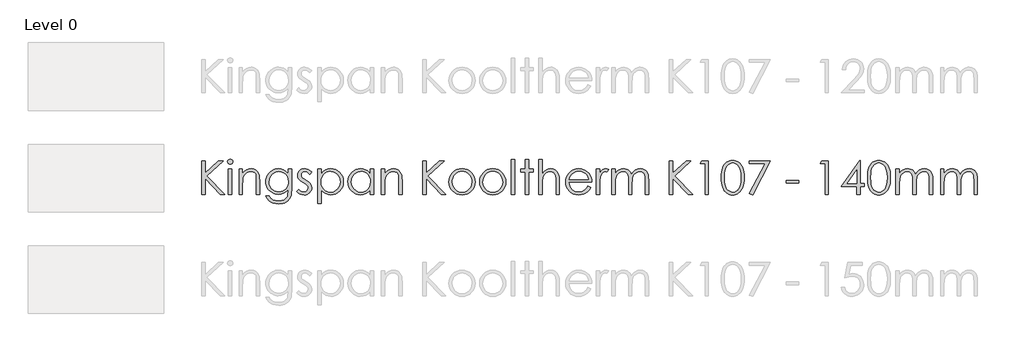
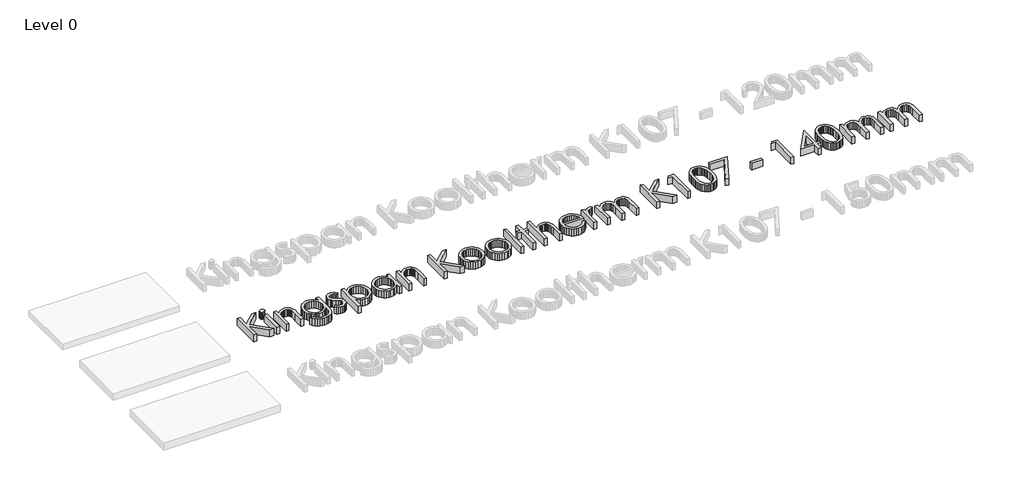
# One storey, part 2 of 13: 1 proxy.
"""IFC4 building model written with IfcOpenShell, lengths in millimetres."""

from ifc_helpers import new_model, si_unit, origin, origin_with_axes, place, context, project, spatial, polyline, outline, extrude, element, save

model = new_model("IFC4")

# Units and contexts
model_context = context("Model", 3, world=origin())
ifc_project = project(units=[si_unit("LENGTHUNIT", "METRE", prefix="MILLI")], contexts=[model_context])

# Site, building, storey
site = spatial("IfcSite", under=ifc_project)
building = spatial("IfcBuilding", under=site)
storey = spatial("IfcBuildingStorey", under=building, Name="Level 0", Elevation=0.0)

# Proxy
placement = place(None, origin())
element("IfcBuildingElementProxy", 1, Name="600mm KI_CenturyGothic", ObjectType="600mm KI_CenturyGothic", at=placement, inside=storey, context=model_context, shape_type="SweptSolid", body=[
    extrude(outline(polyline([(-3852.2663848, -13899.1034017), (-3792.944575, -13899.1034017), (-3792.944575, -14118.316027), (-3555.1938841, -13899.1034017), (-3471.6181051, -13899.1034017), (-3760.9664119, -14166.0515459), (-3441.9572002, -14492.3214999), (-3520.8984627, -14492.3214999), (-3792.944575, -14214.0960325), (-3792.944575, -14492.3214999), (-3852.2663848, -14492.3214999), (-3852.2663848, -13899.1034017)])), origin_with_axes(), (0.0, 0.0, 1.0), 150.0),
    extrude(outline(polyline([(-3348.1854852, -13869.4424967), (-3329.145347, -13872.7252792), (-3313.1176445, -13882.5736265), (-3302.226531, -13897.0178693), (-3298.5961598, -13914.088338), (-3302.226531, -13930.9270809), (-3313.1176445, -13945.2940817), (-3329.145347, -13955.142429), (-3348.1854852, -13958.4252115), (-3366.9938975, -13955.142429), (-3382.9443581, -13945.2940817), (-3393.8354717, -13930.9270809), (-3397.4658428, -13914.088338), (-3393.8354717, -13897.0178693), (-3382.9443581, -13882.5736265), (-3366.9938975, -13872.7252792), (-3348.1854852, -13869.4424967)])), origin_with_axes(), (0.0, 0.0, 1.0), 150.0),
    extrude(outline(polyline([(-3377.6919062, -14047.4079262), (-3318.3700964, -14047.4079262), (-3318.3700964, -14492.3214999), (-3377.6919062, -14492.3214999), (-3377.6919062, -14047.4079262)])), origin_with_axes(), (0.0, 0.0, 1.0), 150.0),
    extrude(outline(polyline([(-3189.8395084, -14047.4079262), (-3130.5176986, -14047.4079262), (-3130.5176986, -14126.5036726), (-3096.9946967, -14086.9944204), (-3060.0730495, -14059.303185), (-3019.7141359, -14042.9665147), (-2975.879335, -14037.5209579), (-2953.4357238, -14039.0995901), (-2932.2955704, -14043.8354865), (-2912.4588747, -14051.7286472), (-2893.9256368, -14062.7790723), (-2877.212412, -14076.5039994), (-2862.835756, -14092.4206667), (-2841.0921499, -14130.8292213), (-2833.6238199, -14155.2087086), (-2828.2892984, -14185.5551357), (-2824.0216812, -14264.1488095), (-2824.0216812, -14492.3214999), (-2883.343491, -14492.3214999), (-2883.343491, -14279.1337458), (-2883.343491, -14176.092998), (-2884.7290183, -14155.2956057), (-2889.8125035, -14137.2403023), (-2898.2849788, -14121.9270877), (-2910.1464442, -14109.355962), (-2924.7403432, -14099.5558909), (-2941.4101193, -14092.5558401), (-2980.977303, -14086.9557994), (-3005.3471351, -14089.1137461), (-3028.4038541, -14095.5875862), (-3050.1474602, -14106.3773197), (-3070.5779533, -14121.4829466), (-3088.6622225, -14139.7651482), (-3103.3671568, -14160.084606), (-3114.6927562, -14182.44132), (-3122.6390208, -14206.8352901), (-3128.5480292, -14253.9142525), (-3130.5176986, -14328.4141035), (-3130.5176986, -14492.3214999), (-3189.8395084, -14492.3214999), (-3189.8395084, -14047.4079262)])), origin_with_axes(), (0.0, 0.0, 1.0), 150.0),
    extrude(outline(polyline([(-2319.7862977, -14047.4079262), (-2260.4644879, -14047.4079262), (-2260.4644879, -14398.395301), (-2264.5196897, -14478.6496765), (-2269.588692, -14509.4499001), (-2276.6852953, -14534.0321474), (-2289.9371156, -14562.6454585), (-2307.2924139, -14587.7732271), (-2328.7511904, -14609.4154531), (-2354.3134448, -14627.5721366), (-2383.3226209, -14641.9343098), (-2415.122162, -14652.1930049), (-2449.7120682, -14658.348222), (-2487.0923395, -14660.3999611), (-2541.0458345, -14656.3833802), (-2589.206184, -14644.3336376), (-2630.260275, -14625.5059147), (-2662.8949946, -14601.1553932), (-2690.2000204, -14567.8061856), (-2715.2650299, -14521.9824048), (-2655.94322, -14521.9824048), (-2642.4355358, -14543.151524), (-2627.0933555, -14561.3951046), (-2609.9166791, -14576.7131468), (-2590.9055067, -14589.1056506), (-2569.7894914, -14598.6691682), (-2546.2982864, -14605.5002523), (-2492.1903075, -14610.9651195), (-2438.5071593, -14605.6354257), (-2415.083541, -14598.9733084), (-2393.93856, -14589.6463441), (-2359.6624492, -14565.6047903), (-2336.8567664, -14536.1176798), (-2329.3884364, -14517.4782342), (-2324.0539149, -14493.7697863), (-2319.7862977, -14431.1458835), (-2319.7862977, -14408.4367532), (-2354.757586, -14444.2190818), (-2396.6420279, -14470.6165148), (-2443.392712, -14486.8952536), (-2492.9627269, -14492.3214999), (-2522.4063889, -14490.4242447), (-2550.9521133, -14484.7324793), (-2578.5999001, -14475.2462036), (-2605.3497494, -14461.9654175), (-2630.1540674, -14445.4742634), (-2651.9652601, -14426.3568832), (-2670.7833277, -14404.6132772), (-2686.6082702, -14380.2434451), (-2699.1456025, -14353.9280817), (-2708.1008399, -14326.3478816), (-2713.4739824, -14297.5028447), (-2715.2650299, -14267.392971), (-2713.3967404, -14237.1044753), (-2707.7918722, -14207.8780563), (-2698.4504251, -14179.713714), (-2685.3723991, -14152.6114483), (-2668.9971079, -14127.4257483), (-2649.7638648, -14105.0111029), (-2627.67267, -14085.367512), (-2602.7235235, -14068.4949758), (-2575.9833294, -14054.943843), (-2548.5189922, -14045.2644624), (-2520.3305117, -14039.456834), (-2491.4178881, -14037.5209579), (-2444.5320306, -14042.4644421), (-2400.8903346, -14057.2948945), (-2359.6045177, -14083.8661218), (-2319.7862977, -14124.0319306), (-2319.7862977, -14047.4079262)]), holes=[polyline([(-2484.1571458, -14086.9557994), (-2529.0154023, -14092.9806707), (-2570.5908765, -14111.0552847), (-2606.2187212, -14139.7699758), (-2633.2340897, -14177.7150788), (-2650.2659375, -14221.9940208), (-2655.94322, -14269.7102292), (-2653.0080263, -14305.6229036), (-2644.2024452, -14338.2817613), (-2629.5264766, -14367.6868023), (-2608.9801206, -14393.8380266), (-2583.7606272, -14415.296803), (-2555.0652466, -14430.6245004), (-2522.8939786, -14439.8211189), (-2487.2468234, -14442.8866584), (-2451.3244937, -14439.845257), (-2419.1001219, -14430.7210528), (-2390.573708, -14415.5140459), (-2365.7452519, -14394.2242363), (-2345.6382095, -14367.9812872), (-2331.2760363, -14337.9148621), (-2322.6587323, -14304.024961), (-2319.7862977, -14266.3115838), (-2325.0773706, -14217.6105407), (-2340.9505892, -14174.3936754), (-2366.4983608, -14138.1672056), (-2400.8130926, -14110.4373492), (-2440.9982119, -14092.8261869), (-2484.1571458, -14086.9557994)])]), origin_with_axes(), (0.0, 0.0, 1.0), 150.0),
    extrude(outline(polyline([(-1904.5336289, -14098.6965743), (-1940.9918246, -14136.390641), (-1962.9575012, -14114.7628978), (-1984.6721416, -14099.3145098), (-2006.1357456, -14090.045477), (-2027.3483133, -14086.9557994), (-2052.181597, -14091.6289368), (-2073.2300256, -14105.6483489), (-2087.5970264, -14125.8857371), (-2092.3860267, -14149.212803), (-2088.4466878, -14170.7633042), (-2076.628671, -14191.2324183), (-2052.0657341, -14213.400855), (-2010.2006027, -14239.122421), (-1958.3326401, -14271.9888664), (-1939.8428507, -14287.8138088), (-1926.315856, -14303.2332311), (-1909.9791857, -14335.9065716), (-1904.5336289, -14372.4420092), (-1906.9474396, -14398.5884059), (-1914.1888714, -14422.6492701), (-1926.2579245, -14444.624602), (-1943.1545989, -14464.5144015), (-1963.6719892, -14481.0055557), (-1986.6031901, -14492.7849515), (-2011.9482016, -14499.852589), (-2039.7070237, -14502.2084682), (-2077.4397114, -14498.3270607), (-2113.3958344, -14486.6828383), (-2145.4512394, -14468.2027042), (-2171.4817731, -14443.8135617), (-2135.7959969, -14403.3387852), (-2114.0041146, -14424.9665283), (-2091.5749863, -14440.4149163), (-2068.5086121, -14449.6839491), (-2044.8049918, -14452.7736267), (-2013.637869, -14447.1349651), (-1987.4914724, -14430.2189802), (-1969.7644472, -14405.6560434), (-1963.8554388, -14377.0765256), (-1967.7561567, -14353.2860081), (-1979.4583106, -14332.2762005), (-2005.0253927, -14310.5712154), (-2050.2119275, -14283.7682622), (-2099.762632, -14253.1032121), (-2117.441381, -14237.9444814), (-2130.3890611, -14222.9016136), (-2146.3781427, -14190.7689666), (-2151.7078365, -14154.310771), (-2149.5305794, -14130.2643896), (-2142.9988078, -14108.3325063), (-2132.1125219, -14088.5151211), (-2116.8717217, -14070.812234), (-2098.309518, -14056.2473007), (-2077.4590218, -14045.8437769), (-2054.3202332, -14039.6016627), (-2028.8931521, -14037.5209579), (-1997.9481, -14041.3444339), (-1966.9064954, -14052.814862), (-1935.7683384, -14071.9322421), (-1904.5336289, -14098.6965743)])), origin_with_axes(), (0.0, 0.0, 1.0), 150.0),
    extrude(outline(polyline([(-1795.7769776, -14047.4079262), (-1736.4551678, -14047.4079262), (-1736.4551678, -14128.5119631), (-1700.9238754, -14088.2689124), (-1660.4490989, -14059.9211205), (-1614.9922173, -14043.1209986), (-1564.5146096, -14037.5209579), (-1520.0618732, -14041.7596094), (-1478.9305402, -14054.4755637), (-1441.1206107, -14075.668821), (-1406.6320845, -14105.3393811), (-1377.9077381, -14140.9768811), (-1357.3903478, -14180.070958), (-1345.0799137, -14222.6216116), (-1340.9764356, -14268.628842), (-1345.0412927, -14315.5291824), (-1357.235864, -14358.7508754), (-1377.5601494, -14398.293921), (-1406.014149, -14434.1583192), (-1440.2130179, -14463.9302594), (-1477.7719111, -14485.1959309), (-1518.6908288, -14497.9553339), (-1562.9697708, -14502.2084682), (-1612.6170277, -14496.743601), (-1658.0545988, -14480.3489992), (-1699.3211052, -14453.1019049), (-1736.4551678, -14415.07956), (-1736.4551678, -14650.5129928), (-1795.7769776, -14650.5129928), (-1795.7769776, -14047.4079262)]), holes=[polyline([(-1568.5311905, -14086.9557994), (-1602.5852307, -14090.2530647), (-1633.8392507, -14100.1448607), (-1662.2932503, -14116.6311872), (-1687.9472295, -14139.7120444), (-1709.1694525, -14167.6977647), (-1724.3281832, -14198.8986808), (-1733.4234216, -14233.3147926), (-1736.4551678, -14270.9461002), (-1731.048232, -14319.8016272), (-1714.8274246, -14363.4819442), (-1688.5265441, -14400.3263495), (-1652.8793888, -14428.6741414), (-1611.4390881, -14446.7487554), (-1567.7587711, -14452.7736267), (-1525.0632888, -14446.7101344), (-1485.0326535, -14428.5196576), (-1450.2544701, -14399.4187567), (-1423.3163435, -14360.6239924), (-1406.05277, -14315.9588407), (-1400.2982454, -14269.2467775), (-1405.9948385, -14222.3029886), (-1423.0846177, -14177.8695627), (-1449.8103289, -14139.5189395), (-1484.414718, -14110.8235589), (-1524.7157001, -14092.9227393), (-1568.5311905, -14086.9557994)])]), origin_with_axes(), (0.0, 0.0, 1.0), 150.0),
    extrude(outline(polyline([(-807.0801472, -14047.4079262), (-807.0801472, -14492.3214999), (-866.401957, -14492.3214999), (-866.401957, -14416.4699149), (-903.4780882, -14454.3184655), (-944.8797679, -14481.0441767), (-990.4525125, -14496.9173953), (-1040.0418379, -14502.2084682), (-1084.3159523, -14497.9553339), (-1125.2203871, -14485.1959309), (-1162.7551422, -14463.9302594), (-1196.9202178, -14434.1583192), (-1225.340424, -14398.293921), (-1245.6405713, -14358.7508754), (-1257.8206597, -14315.5291824), (-1261.8806892, -14268.628842), (-1257.7820388, -14222.6216116), (-1245.4860875, -14180.070958), (-1224.9928353, -14140.9768811), (-1196.3022822, -14105.3393811), (-1161.8475494, -14075.668821), (-1124.061758, -14054.4755637), (-1082.9449079, -14041.7596094), (-1038.4969991, -14037.5209579), (-987.7490446, -14043.1209986), (-942.0990581, -14059.9211205), (-921.2051134, -14072.6081091), (-901.6242816, -14088.2689124), (-866.401957, -14128.5119631), (-866.401957, -14047.4079262), (-807.0801472, -14047.4079262)]), holes=[polyline([(-1034.3259343, -14086.9557994), (-1078.1414247, -14092.9227393), (-1118.4424068, -14110.8235589), (-1153.0467959, -14139.5189395), (-1179.7725071, -14177.8695627), (-1196.8622863, -14222.3029886), (-1202.5588794, -14269.2467775), (-1196.8043548, -14315.9588407), (-1179.5407813, -14360.6239924), (-1152.6026548, -14399.4187567), (-1117.8244713, -14428.5196576), (-1077.6779731, -14446.7101344), (-1034.6349021, -14452.7736267), (-991.0125165, -14446.7487554), (-949.7460102, -14428.6741414), (-914.2726493, -14400.3263495), (-888.0297002, -14363.4819442), (-871.8088928, -14319.8016272), (-866.401957, -14270.9461002), (-869.4337032, -14233.3147926), (-878.5289416, -14198.8986808), (-893.6876723, -14167.6977647), (-914.9098953, -14139.7120444), (-940.5638746, -14116.6311872), (-969.0178742, -14100.1448607), (-1000.2718941, -14090.2530647), (-1034.3259343, -14086.9557994)])]), origin_with_axes(), (0.0, 0.0, 1.0), 150.0),
    extrude(outline(polyline([(-668.662591, -14047.4079262), (-609.3407811, -14047.4079262), (-609.3407811, -14126.5036726), (-575.8177792, -14086.9944204), (-538.896132, -14059.303185), (-498.5372184, -14042.9665147), (-454.7024175, -14037.5209579), (-432.2588064, -14039.0995901), (-411.1186529, -14043.8354865), (-391.2819572, -14051.7286472), (-372.7487193, -14062.7790723), (-356.0354946, -14076.5039994), (-341.6588385, -14092.4206667), (-319.9152324, -14130.8292213), (-312.4469024, -14155.2087086), (-307.1123809, -14185.5551357), (-302.8447637, -14264.1488095), (-302.8447637, -14492.3214999), (-362.1665735, -14492.3214999), (-362.1665735, -14279.1337458), (-362.1665735, -14176.092998), (-363.5521008, -14155.2956057), (-368.635586, -14137.2403023), (-377.1080613, -14121.9270877), (-388.9695267, -14109.355962), (-403.5634257, -14099.5558909), (-420.2332018, -14092.5558401), (-459.8003855, -14086.9557994), (-484.1702176, -14089.1137461), (-507.2269366, -14095.5875862), (-528.9705427, -14106.3773197), (-549.4010358, -14121.4829466), (-567.485305, -14139.7651482), (-582.1902393, -14160.084606), (-593.5158387, -14182.44132), (-601.4621033, -14206.8352901), (-607.3711117, -14253.9142525), (-609.3407811, -14328.4141035), (-609.3407811, -14492.3214999), (-668.662591, -14492.3214999), (-668.662591, -14047.4079262)])), origin_with_axes(), (0.0, 0.0, 1.0), 150.0),
    extrude(outline(polyline([(62.9730635, -13899.1034017), (122.2948734, -13899.1034017), (122.2948734, -14118.316027), (360.0455643, -13899.1034017), (443.6213432, -13899.1034017), (154.2730365, -14166.0515459), (473.2822481, -14492.3214999), (394.3409856, -14492.3214999), (122.2948734, -14214.0960325), (122.2948734, -14492.3214999), (62.9730635, -14492.3214999), (62.9730635, -13899.1034017)])), origin_with_axes(), (0.0, 0.0, 1.0), 150.0),
    extrude(outline(polyline([(760.1588128, -14037.5209579), (809.4681362, -14042.1458191), (854.3553585, -14056.0204025), (894.8204798, -14079.1447083), (930.8635, -14111.5187363), (957.7630055, -14146.7507161), (976.9769381, -14185.091684), (988.5052976, -14226.54164), (992.3480841, -14271.1005841), (988.283227, -14315.9153921), (976.0886558, -14357.8239721), (955.7643703, -14396.8263241), (927.3103707, -14432.9224481), (892.4742558, -14463.2350819), (853.0036246, -14484.8869632), (808.8984769, -14497.8780919), (760.1588128, -14502.2084682), (711.2839754, -14497.8780919), (667.0822753, -14484.8869632), (627.5537126, -14463.2350819), (592.6982872, -14432.9224481), (564.2442876, -14396.8263241), (543.9200022, -14357.8239721), (531.7254309, -14315.9153921), (527.6605738, -14271.1005841), (531.5033603, -14226.7347449), (543.0317198, -14185.4006518), (562.2456524, -14147.0983049), (589.145158, -14111.8277041), (625.2074886, -14079.3185026), (665.7305413, -14056.0976445), (710.7143161, -14042.1651295), (760.1588128, -14037.5209579)]), holes=[polyline([(760.004329, -14086.9557994), (725.7282181, -14090.3303067), (693.9624704, -14100.4538284), (664.7070856, -14117.3263647), (637.962064, -14140.9479154), (615.6584538, -14169.3584664), (599.7273037, -14200.5980035), (590.1686137, -14234.6665266), (586.9823836, -14271.5640357), (592.7948396, -14319.2995546), (610.2322075, -14363.6364281), (637.5758543, -14401.4270471), (673.1071466, -14429.5238028), (714.6439998, -14446.9611707), (760.004329, -14452.7736267), (805.3646581, -14446.9611707), (846.9015113, -14429.5238028), (882.4328037, -14401.4270471), (909.7764504, -14363.6364281), (927.2138183, -14319.2995546), (933.0262743, -14271.5640357), (929.8255614, -14234.6665266), (920.2234227, -14200.5980035), (904.2198583, -14169.3584664), (881.8148681, -14140.9479154), (854.9974321, -14117.3263647), (825.7565303, -14100.4538284), (794.0921625, -14090.3303067), (760.004329, -14086.9557994)])]), origin_with_axes(), (0.0, 0.0, 1.0), 150.0),
    extrude(outline(polyline([(1303.9420695, -14037.5209579), (1353.2513929, -14042.1458191), (1398.1386152, -14056.0204025), (1438.6037365, -14079.1447083), (1474.6467567, -14111.5187363), (1501.5462622, -14146.7507161), (1520.7601948, -14185.091684), (1532.2885543, -14226.54164), (1536.1313408, -14271.1005841), (1532.0664837, -14315.9153921), (1519.8719125, -14357.8239721), (1499.547627, -14396.8263241), (1471.0936274, -14432.9224481), (1436.2575126, -14463.2350819), (1396.7868813, -14484.8869632), (1352.6817336, -14497.8780919), (1303.9420695, -14502.2084682), (1255.0672321, -14497.8780919), (1210.865532, -14484.8869632), (1171.3369693, -14463.2350819), (1136.4815439, -14432.9224481), (1108.0275443, -14396.8263241), (1087.7032589, -14357.8239721), (1075.5086876, -14315.9153921), (1071.4438305, -14271.1005841), (1075.286617, -14226.7347449), (1086.8149766, -14185.4006518), (1106.0289091, -14147.0983049), (1132.9284147, -14111.8277041), (1168.9907453, -14079.3185026), (1209.5137981, -14056.0976445), (1254.4975728, -14042.1651295), (1303.9420695, -14037.5209579)]), holes=[polyline([(1303.7875857, -14086.9557994), (1269.5114748, -14090.3303067), (1237.7457271, -14100.4538284), (1208.4903423, -14117.3263647), (1181.7453207, -14140.9479154), (1159.4417105, -14169.3584664), (1143.5105604, -14200.5980035), (1133.9518704, -14234.6665266), (1130.7656404, -14271.5640357), (1136.5780963, -14319.2995546), (1154.0154643, -14363.6364281), (1181.359111, -14401.4270471), (1216.8904033, -14429.5238028), (1258.4272565, -14446.9611707), (1303.7875857, -14452.7736267), (1349.1479149, -14446.9611707), (1390.684768, -14429.5238028), (1426.2160604, -14401.4270471), (1453.5597071, -14363.6364281), (1470.997075, -14319.2995546), (1476.809531, -14271.5640357), (1473.6088181, -14234.6665266), (1464.0066795, -14200.5980035), (1448.003115, -14169.3584664), (1425.5981249, -14140.9479154), (1398.7806889, -14117.3263647), (1369.539787, -14100.4538284), (1337.8754193, -14090.3303067), (1303.7875857, -14086.9557994)])]), origin_with_axes(), (0.0, 0.0, 1.0), 150.0),
    extrude(outline(polyline([(1635.0010238, -13879.3294651), (1694.3228337, -13879.3294651), (1694.3228337, -14492.3214999), (1635.0010238, -14492.3214999), (1635.0010238, -13879.3294651)])), origin_with_axes(), (0.0, 0.0, 1.0), 150.0),
    extrude(outline(polyline([(1882.1752314, -13879.3294651), (1941.4970413, -13879.3294651), (1941.4970413, -14047.4079262), (2020.5927877, -14047.4079262), (2020.5927877, -14096.8427677), (1941.4970413, -14096.8427677), (1941.4970413, -14492.3214999), (1882.1752314, -14492.3214999), (1882.1752314, -14096.8427677), (1803.079485, -14096.8427677), (1803.079485, -14047.4079262), (1882.1752314, -14047.4079262), (1882.1752314, -13879.3294651)])), origin_with_axes(), (0.0, 0.0, 1.0), 150.0),
    extrude(outline(polyline([(2119.4624707, -13879.3294651), (2178.7842806, -13879.3294651), (2178.7842806, -14128.0485114), (2212.5583188, -14088.3461544), (2249.6151394, -14060.0756044), (2289.9161216, -14043.1596195), (2333.4226442, -14037.5209579), (2355.8662553, -14039.0995901), (2377.0064088, -14043.8354865), (2396.8431044, -14051.7286472), (2415.3763424, -14062.7790723), (2432.0895671, -14076.4895166), (2446.4662232, -14092.3627352), (2468.2098293, -14130.5974955), (2475.6781593, -14154.9045684), (2481.0126808, -14185.2654784), (2485.280298, -14264.1488095), (2485.280298, -14492.3214999), (2425.9584882, -14492.3214999), (2425.9584882, -14279.1337458), (2424.5681332, -14214.752589), (2420.3970685, -14176.092998), (2406.879729, -14137.2403023), (2397.1665551, -14121.9270877), (2385.4837117, -14109.355962), (2371.840854, -14099.5558909), (2356.2476374, -14092.5558401), (2319.2101273, -14086.9557994), (2296.3416854, -14089.1137461), (2274.6994594, -14095.5875862), (2254.2834492, -14106.3773197), (2235.0936547, -14121.4829466), (2218.1052556, -14139.7651482), (2204.2934312, -14160.084606), (2193.6581816, -14182.44132), (2186.1995068, -14206.8352901), (2180.6380871, -14253.6825267), (2178.7842806, -14328.4141035), (2178.7842806, -14492.3214999), (2119.4624707, -14492.3214999), (2119.4624707, -13879.3294651)])), origin_with_axes(), (0.0, 0.0, 1.0), 150.0),
    extrude(outline(polyline([(2991.0605203, -14344.0169753), (3038.950523, -14369.1978477), (3013.3255094, -14411.0822896), (2984.0315038, -14444.0452875), (2950.952643, -14469.1296074), (2913.9730643, -14487.3780157), (2872.4941426, -14498.5008551), (2825.9172528, -14502.2084682), (2774.4258447, -14497.7767119), (2728.8627554, -14484.481443), (2689.227985, -14462.3226615), (2655.5215335, -14431.3003674), (2628.6220279, -14394.6973431), (2609.4080954, -14355.7963712), (2597.8797358, -14314.5974515), (2594.0369493, -14271.1005841), (2597.3197318, -14230.2202874), (2607.1680791, -14191.618628), (2623.5819913, -14155.2956057), (2646.5614684, -14121.2512207), (2682.7493173, -14084.6192308), (2724.5758277, -14058.4535236), (2772.0409998, -14042.7540993), (2825.1448334, -14037.5209579), (2879.7935059, -14042.8892727), (2928.6490329, -14058.9942172), (2971.7114143, -14085.8357913), (3008.9806503, -14123.4139951), (3030.4539096, -14155.585263), (3045.9022976, -14191.541386), (3055.3258143, -14231.2823641), (3058.7244596, -14274.8081972), (2653.3587591, -14274.8081972), (2657.095338, -14312.0629503), (2666.6057518, -14345.8128504), (2681.8900007, -14376.0578975), (2702.9480845, -14402.7980916), (2728.3124066, -14424.6623882), (2756.5153699, -14440.2797429), (2787.5569744, -14449.6501557), (2821.4372203, -14452.7736267), (2854.9602222, -14449.761191), (2887.5563208, -14440.7238841), (2917.2944677, -14426.6851615), (2942.2436143, -14408.668479), (2965.725164, -14382.5027719), (2991.0605203, -14344.0169753)]), holes=[polyline([(2999.4026498, -14225.3733557), (2984.9777175, -14182.8516678), (2965.1844704, -14149.8307385), (2939.0766947, -14124.3022774), (2905.7081767, -14104.257994), (2867.7630738, -14091.2813481), (2827.9255433, -14086.9557994), (2795.503239, -14089.6689226), (2765.4368139, -14097.808292), (2737.726268, -14111.3739077), (2712.3716012, -14130.3657696), (2695.8321708, -14148.179692), (2681.4362043, -14169.9522638), (2669.1837016, -14195.683485), (2659.0746627, -14225.3733557), (2999.4026498, -14225.3733557)])]), origin_with_axes(), (0.0, 0.0, 1.0), 150.0),
    extrude(outline(polyline([(3137.820206, -14047.4079262), (3197.1420159, -14047.4079262), (3197.1420159, -14111.8277041), (3222.6897875, -14078.7874643), (3249.589293, -14055.6728138), (3277.7632906, -14042.0589219), (3307.1345382, -14037.5209579), (3330.4616041, -14041.305813), (3355.3335087, -14052.6603781), (3325.8270877, -14094.6799934), (3297.2475699, -14086.9557994), (3270.8308265, -14092.9034288), (3245.3409863, -14110.7463169), (3223.2884125, -14141.1023993), (3207.183468, -14184.5896114), (3199.6523789, -14242.7141712), (3197.1420159, -14340.1548783), (3197.1420159, -14492.3214999), (3137.820206, -14492.3214999), (3137.820206, -14047.4079262)])), origin_with_axes(), (0.0, 0.0, 1.0), 150.0),
    extrude(outline(polyline([(3414.6553185, -14047.4079262), (3473.9771284, -14047.4079262), (3473.9771284, -14123.5684789), (3503.5607913, -14087.0716623), (3533.9168737, -14061.9294109), (3577.3268439, -14043.6230712), (3622.8995884, -14037.5209579), (3653.7384329, -14040.668567), (3682.9165757, -14050.1113941), (3708.6767627, -14064.7873627), (3729.2617397, -14083.634396), (3746.0425511, -14109.0663047), (3760.3902414, -14143.4968994), (3775.16759, -14119.0981017), (3791.6925376, -14097.808292), (3809.965084, -14079.6274704), (3829.9852293, -14064.5556369), (3851.2798666, -14052.7279648), (3873.375889, -14044.2796277), (3896.2732965, -14039.2106253), (3919.9720892, -14037.5209579), (3962.3006723, -14043.3334139), (3981.4952943, -14050.5989839), (3999.3768034, -14060.7707818), (4015.4914031, -14073.53984), (4029.385297, -14088.5971907), (4050.5109676, -14125.5767694), (4057.8103309, -14148.9521114), (4063.0241619, -14177.5219739), (4067.1952266, -14250.2452603), (4067.1952266, -14492.3214999), (4007.8734168, -14492.3214999), (4007.8734168, -14246.6921311), (4005.4209852, -14185.5744462), (3998.0636904, -14147.1272706), (3984.7587663, -14122.6608861), (3964.4634466, -14103.4855746), (3938.3942919, -14091.0882432), (3907.7678627, -14086.9557994), (3888.1194442, -14088.5054659), (3869.3399976, -14093.1544651), (3834.3880198, -14111.7504621), (3805.6540182, -14140.6968791), (3785.8800816, -14177.9468046), (3779.1889985, -14202.1042213), (3774.4096535, -14233.1747916), (3770.5861775, -14316.0553931), (3770.5861775, -14492.3214999), (3711.2643677, -14492.3214999), (3711.2643677, -14261.9860352), (3708.850557, -14193.530366), (3701.6091252, -14151.2983353), (3688.3621325, -14125.0553863), (3667.9316394, -14104.5669617), (3641.6114484, -14091.35859), (3610.6953619, -14086.9557994), (3573.7544042, -14092.9999812), (3539.2465676, -14111.1325266), (3510.2808401, -14139.499629), (3489.9662099, -14176.2474819), (3477.9743988, -14228.0768236), (3473.9771284, -14301.6883923), (3473.9771284, -14492.3214999), (3414.6553185, -14492.3214999), (3414.6553185, -14047.4079262)])), origin_with_axes(), (0.0, 0.0, 1.0), 150.0),
    extrude(outline(polyline([(4433.0130538, -13899.1034017), (4492.3348637, -13899.1034017), (4492.3348637, -14118.316027), (4730.0855546, -13899.1034017), (4813.6613335, -13899.1034017), (4524.3130268, -14166.0515459), (4843.3222385, -14492.3214999), (4764.3809759, -14492.3214999), (4492.3348637, -14214.0960325), (4492.3348637, -14492.3214999), (4433.0130538, -14492.3214999), (4433.0130538, -13899.1034017)])), origin_with_axes(), (0.0, 0.0, 1.0), 150.0),
    extrude(outline(polyline([(5010.6282802, -13899.1034017), (5125.1008351, -13899.1034017), (5125.1008351, -14492.3214999), (5065.7790253, -14492.3214999), (5065.7790253, -13948.5382432), (4976.7963106, -13948.5382432), (5010.6282802, -13899.1034017)])), origin_with_axes(), (0.0, 0.0, 1.0), 150.0),
    extrude(outline(polyline([(5352.5011061, -14195.8669347), (5354.0797383, -14141.4355052), (5358.8156347, -14093.5406748), (5366.7087954, -14052.1824436), (5377.7592204, -14017.3608116), (5391.6869077, -13987.7192172), (5408.2118552, -13961.9010988), (5427.334063, -13939.9064564), (5449.053531, -13921.73529), (5472.747496, -13907.5082902), (5497.793195, -13897.3461475), (5524.190628, -13891.2488619), (5551.9397949, -13889.2164334), (5580.1427582, -13891.2633448), (5606.974677, -13897.404079), (5632.4355515, -13907.638636), (5656.5253815, -13921.9670159), (5678.7083011, -13940.3843909), (5698.4484443, -13962.8859335), (5715.7458112, -13989.4716437), (5730.6004018, -14020.1415214), (5742.5294539, -14055.6583309), (5751.0502054, -14096.7848363), (5756.1626563, -14143.5210375), (5757.8668066, -14195.8669347), (5756.1867944, -14248.0535203), (5751.1467578, -14294.6207548), (5742.7466968, -14335.5686382), (5730.9866115, -14370.8971704), (5716.2768496, -14401.4222195), (5699.0277589, -14427.9596535), (5679.2393394, -14450.5094723), (5656.9115912, -14469.071676), (5632.6527944, -14483.5690226), (5607.0712295, -14493.9242701), (5580.1668963, -14500.1374187), (5551.9397949, -14502.2084682), (5524.2147661, -14500.2001778), (5497.8897474, -14494.1753064), (5472.964739, -14484.1338543), (5449.4397407, -14470.0758212), (5427.8651013, -14452.0398282), (5408.7911698, -14430.0644964), (5392.2179461, -14404.1498255), (5378.1454301, -14374.2958158), (5366.9260384, -14339.2762513), (5358.9121871, -14297.8649163), (5354.1038764, -14250.0618107), (5352.5011061, -14195.8669347)]), holes=[polyline([(5411.8229159, -14195.7124508), (5416.206396, -14284.038609), (5421.6857461, -14319.0195525), (5429.3568363, -14347.8790723), (5439.1713903, -14372.1185586), (5451.0811319, -14393.2394015), (5465.0860611, -14411.2416011), (5481.1861779, -14426.1251574), (5516.4857445, -14446.1115094), (5534.8886366, -14451.1080973), (5553.7936014, -14452.7736267), (5572.7854634, -14451.1418907), (5591.1400794, -14446.2466828), (5625.9375733, -14426.665851), (5641.694929, -14411.9898824), (5655.4439943, -14394.0697524), (5667.1847692, -14372.9054608), (5676.9172536, -14348.4970078), (5686.3793912, -14315.1381451), (5693.138061, -14278.5544313), (5698.5449967, -14195.7124508), (5693.7173755, -14114.1063413), (5687.682849, -14079.4150551), (5679.2345118, -14048.7982811), (5668.652366, -14022.135329), (5656.2164137, -13999.3055082), (5641.9266548, -13980.3088186), (5625.7830894, -13965.1452603), (5590.7152487, -13945.2747712), (5572.4861509, -13940.307149), (5553.7936014, -13938.6512749), (5534.7776014, -13940.307149), (5516.3505711, -13945.2747712), (5481.2634199, -13965.1452603), (5465.3177869, -13979.9564022), (5451.3900996, -13997.8958428), (5439.480358, -14018.9635819), (5429.5885621, -14043.1596195), (5421.8160919, -14072.0143117), (5416.2643275, -14107.0580143), (5411.8229159, -14195.7124508)])]), origin_with_axes(), (0.0, 0.0, 1.0), 150.0),
    extrude(outline(polyline([(5846.8495213, -13899.1034017), (6222.5543169, -13899.1034017), (5906.1713311, -14502.2084682), (5852.2564571, -14479.8083056), (6130.9453762, -13948.5382432), (5846.8495213, -13948.5382432), (5846.8495213, -13899.1034017)])), origin_with_axes(), (0.0, 0.0, 1.0), 150.0),
    extrude(outline(polyline([(6499.3894294, -14245.1472923), (6726.7897004, -14245.1472923), (6726.7897004, -14294.5821338), (6499.3894294, -14294.5821338), (6499.3894294, -14245.1472923)])), origin_with_axes(), (0.0, 0.0, 1.0), 150.0),
    extrude(outline(polyline([(7136.3264656, -13899.1034017), (7250.7990205, -13899.1034017), (7250.7990205, -14492.3214999), (7191.4772106, -14492.3214999), (7191.4772106, -13948.5382432), (7102.4944959, -13948.5382432), (7136.3264656, -13899.1034017)])), origin_with_axes(), (0.0, 0.0, 1.0), 150.0),
    extrude(outline(polyline([(7802.3064712, -13889.2164334), (7814.3562138, -13889.2164334), (7814.3562138, -14304.4691021), (7883.5649919, -14304.4691021), (7883.5649919, -14353.9039436), (7814.3562138, -14353.9039436), (7814.3562138, -14492.3214999), (7755.034404, -14492.3214999), (7755.034404, -14353.9039436), (7478.1992914, -14353.9039436), (7802.3064712, -13889.2164334)]), holes=[polyline([(7755.034404, -14304.4691021), (7755.034404, -14057.2948945), (7582.784878, -14304.4691021), (7755.034404, -14304.4691021)])]), origin_with_axes(), (0.0, 0.0, 1.0), 150.0),
    extrude(outline(polyline([(7942.8868017, -14195.8669347), (7944.4654339, -14141.4355052), (7949.2013303, -14093.5406748), (7957.094491, -14052.1824436), (7968.1449161, -14017.3608116), (7982.0726034, -13987.7192172), (7998.5975509, -13961.9010988), (8017.7197586, -13939.9064564), (8039.4392266, -13921.73529), (8063.1331916, -13907.5082902), (8088.1788906, -13897.3461475), (8114.5763236, -13891.2488619), (8142.3254905, -13889.2164334), (8170.5284538, -13891.2633448), (8197.3603726, -13897.404079), (8222.8212471, -13907.638636), (8246.9110771, -13921.9670159), (8269.0939967, -13940.3843909), (8288.8341399, -13962.8859335), (8306.1315069, -13989.4716437), (8320.9860974, -14020.1415214), (8332.9151495, -14055.6583309), (8341.435901, -14096.7848363), (8346.5483519, -14143.5210375), (8348.2525022, -14195.8669347), (8346.57249, -14248.0535203), (8341.5324534, -14294.6207548), (8333.1323925, -14335.5686382), (8321.3723071, -14370.8971704), (8306.6625452, -14401.4222195), (8289.4134545, -14427.9596535), (8269.625035, -14450.5094723), (8247.2972868, -14469.071676), (8223.03849, -14483.5690226), (8197.4569251, -14493.9242701), (8170.5525919, -14500.1374187), (8142.3254905, -14502.2084682), (8114.6004617, -14500.2001778), (8088.2754431, -14494.1753064), (8063.3504346, -14484.1338543), (8039.8254363, -14470.0758212), (8018.2507969, -14452.0398282), (7999.1768654, -14430.0644964), (7982.6036417, -14404.1498255), (7968.5311258, -14374.2958158), (7957.311734, -14339.2762513), (7949.2978827, -14297.8649163), (7944.489572, -14250.0618107), (7942.8868017, -14195.8669347)]), holes=[polyline([(8002.2086116, -14195.7124508), (8006.5920916, -14284.038609), (8012.0714418, -14319.0195525), (8019.7425319, -14347.8790723), (8029.5570859, -14372.1185586), (8041.4668275, -14393.2394015), (8055.4717567, -14411.2416011), (8071.5718736, -14426.1251574), (8106.8714401, -14446.1115094), (8125.2743323, -14451.1080973), (8144.179297, -14452.7736267), (8163.171159, -14451.1418907), (8181.525775, -14446.2466828), (8216.3232689, -14426.665851), (8232.0806246, -14411.9898824), (8245.8296899, -14394.0697524), (8257.5704648, -14372.9054608), (8267.3029492, -14348.4970078), (8276.7650868, -14315.1381451), (8283.5237566, -14278.5544313), (8288.9306924, -14195.7124508), (8284.1030711, -14114.1063413), (8278.0685446, -14079.4150551), (8269.6202074, -14048.7982811), (8259.0380616, -14022.135329), (8246.6021093, -13999.3055082), (8232.3123504, -13980.3088186), (8216.168785, -13965.1452603), (8181.1009443, -13945.2747712), (8162.8718465, -13940.307149), (8144.179297, -13938.6512749), (8125.163297, -13940.307149), (8106.7362667, -13945.2747712), (8071.6491155, -13965.1452603), (8055.7034825, -13979.9564022), (8041.7757953, -13997.8958428), (8029.8660536, -14018.9635819), (8019.9742577, -14043.1596195), (8012.2017875, -14072.0143117), (8006.6500231, -14107.0580143), (8002.2086116, -14195.7124508)])]), origin_with_axes(), (0.0, 0.0, 1.0), 150.0),
    extrude(outline(polyline([(8447.1221852, -14047.4079262), (8506.4439951, -14047.4079262), (8506.4439951, -14123.5684789), (8536.027658, -14087.0716623), (8566.3837404, -14061.9294109), (8609.7937106, -14043.6230712), (8655.3664551, -14037.5209579), (8686.2052996, -14040.668567), (8715.3834424, -14050.1113941), (8741.1436294, -14064.7873627), (8761.7286063, -14083.634396), (8778.5094178, -14109.0663047), (8792.8571081, -14143.4968994), (8807.6344567, -14119.0981017), (8824.1594042, -14097.808292), (8842.4319506, -14079.6274704), (8862.4520959, -14064.5556369), (8883.7467332, -14052.7279648), (8905.8427557, -14044.2796277), (8928.7401632, -14039.2106253), (8952.4389559, -14037.5209579), (8994.7675389, -14043.3334139), (9013.962161, -14050.5989839), (9031.8436701, -14060.7707818), (9047.9582698, -14073.53984), (9061.8521637, -14088.5971907), (9082.9778343, -14125.5767694), (9090.2771976, -14148.9521114), (9095.4910285, -14177.5219739), (9099.6620933, -14250.2452603), (9099.6620933, -14492.3214999), (9040.3402835, -14492.3214999), (9040.3402835, -14246.6921311), (9037.8878519, -14185.5744462), (9030.5305571, -14147.1272706), (9017.225633, -14122.6608861), (8996.9303133, -14103.4855746), (8970.8611585, -14091.0882432), (8940.2347294, -14086.9557994), (8920.5863109, -14088.5054659), (8901.8068643, -14093.1544651), (8866.8548865, -14111.7504621), (8838.1208849, -14140.6968791), (8818.3469483, -14177.9468046), (8811.6558652, -14202.1042213), (8806.8765202, -14233.1747916), (8803.0530442, -14316.0553931), (8803.0530442, -14492.3214999), (8743.7312343, -14492.3214999), (8743.7312343, -14261.9860352), (8741.3174237, -14193.530366), (8734.0759919, -14151.2983353), (8720.8289992, -14125.0553863), (8700.3985061, -14104.5669617), (8674.0783151, -14091.35859), (8643.1622286, -14086.9557994), (8606.2212709, -14092.9999812), (8571.7134342, -14111.1325266), (8542.7477068, -14139.499629), (8522.4330766, -14176.2474819), (8510.4412654, -14228.0768236), (8506.4439951, -14301.6883923), (8506.4439951, -14492.3214999), (8447.1221852, -14492.3214999), (8447.1221852, -14047.4079262)])), origin_with_axes(), (0.0, 0.0, 1.0), 150.0),
    extrude(outline(polyline([(9238.0796495, -14047.4079262), (9297.4014594, -14047.4079262), (9297.4014594, -14123.5684789), (9326.9851223, -14087.0716623), (9357.3412047, -14061.9294109), (9400.7511749, -14043.6230712), (9446.3239194, -14037.5209579), (9477.1627639, -14040.668567), (9506.3409067, -14050.1113941), (9532.1010937, -14064.7873627), (9552.6860706, -14083.634396), (9569.4668821, -14109.0663047), (9583.8145724, -14143.4968994), (9598.591921, -14119.0981017), (9615.1168685, -14097.808292), (9633.389415, -14079.6274704), (9653.4095602, -14064.5556369), (9674.7041975, -14052.7279648), (9696.80022, -14044.2796277), (9719.6976275, -14039.2106253), (9743.3964202, -14037.5209579), (9785.7250032, -14043.3334139), (9804.9196253, -14050.5989839), (9822.8011344, -14060.7707818), (9838.9157341, -14073.53984), (9852.809628, -14088.5971907), (9873.9352986, -14125.5767694), (9881.2346619, -14148.9521114), (9886.4484928, -14177.5219739), (9890.6195576, -14250.2452603), (9890.6195576, -14492.3214999), (9831.2977478, -14492.3214999), (9831.2977478, -14246.6921311), (9828.8453162, -14185.5744462), (9821.4880214, -14147.1272706), (9808.1830973, -14122.6608861), (9787.8877776, -14103.4855746), (9761.8186229, -14091.0882432), (9731.1921937, -14086.9557994), (9711.5437752, -14088.5054659), (9692.7643286, -14093.1544651), (9657.8123508, -14111.7504621), (9629.0783492, -14140.6968791), (9609.3044126, -14177.9468046), (9602.6133295, -14202.1042213), (9597.8339845, -14233.1747916), (9594.0105085, -14316.0553931), (9594.0105085, -14492.3214999), (9534.6886987, -14492.3214999), (9534.6886987, -14261.9860352), (9532.274888, -14193.530366), (9525.0334562, -14151.2983353), (9511.7864635, -14125.0553863), (9491.3559704, -14104.5669617), (9465.0357794, -14091.35859), (9434.1196929, -14086.9557994), (9397.1787352, -14092.9999812), (9362.6708986, -14111.1325266), (9333.7051711, -14139.499629), (9313.3905409, -14176.2474819), (9301.3987298, -14228.0768236), (9297.4014594, -14301.6883923), (9297.4014594, -14492.3214999), (9238.0796495, -14492.3214999), (9238.0796495, -14047.4079262)])), origin_with_axes(), (0.0, 0.0, 1.0), 150.0),
])

save(model, "model.ifc")
